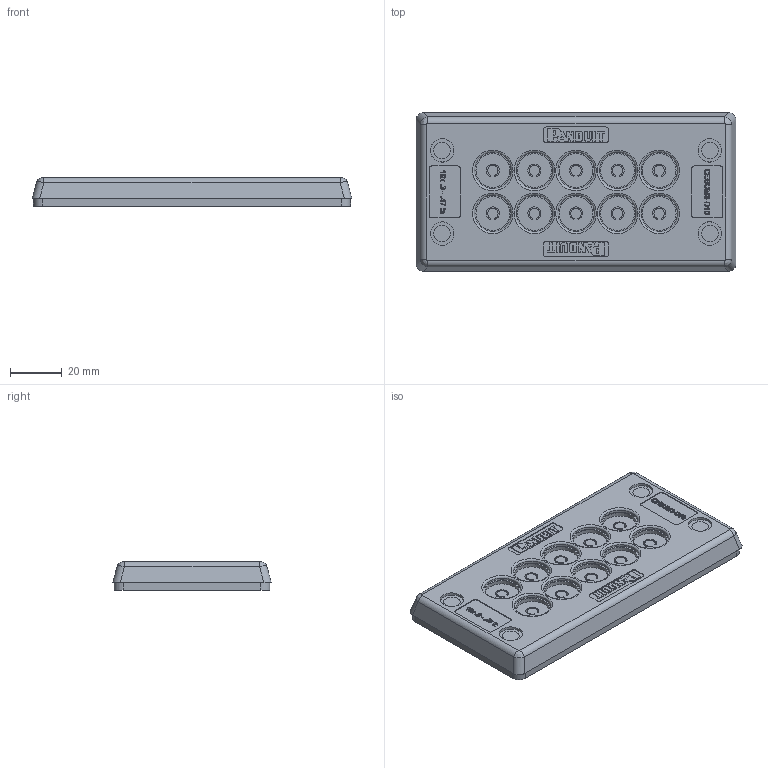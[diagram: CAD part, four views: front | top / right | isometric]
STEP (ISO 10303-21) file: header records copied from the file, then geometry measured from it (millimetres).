
FILE_DESCRIPTION(/* description */ (''),/* implementation_level */ '2;1');
FILE_NAME(/* name */ 'C:\SapWorkDir\Inventor\MP1\ConvertTempPath\87_16_121327_00_A_220602_KDP-Z 16-10.stp',/* time_stamp */ '2022-06-02T09:44:38+02:00',/* author */ ('BAUER'),/* organization */ (''),/* preprocessor_version */ 'ST-DEVELOPER v16.13',/* originating_system */ 'Autodesk Inventor 2018',/* authorisation */ '');
FILE_SCHEMA (('AUTOMOTIVE_DESIGN { 1 0 10303 214 3 1 1 }'));
Products named in the file (1): 121327
Bounding box: 123 x 61 x 11 mm (x, y, z)
Volume: 36538.6 mm3; surface area: 37673.2 mm2
Topology: 2 solids, 2 shells, 1956 faces, 4897 edges, 2880 vertices
Faces by surface type: plane 811, cylinder 661, sphere 211, bspline 157, torus 70, cone 46
Full cylindrical faces by diameter (mm): 6 x3, 6.4 x8, 13 x10
Entity records: 58373 total; most frequent: CARTESIAN_POINT 12664, DIRECTION 9507, ORIENTED_EDGE 9282, EDGE_CURVE 4641, AXIS2_PLACEMENT_3D 3418, VERTEX_POINT 2868, LINE 2671, VECTOR 2671
